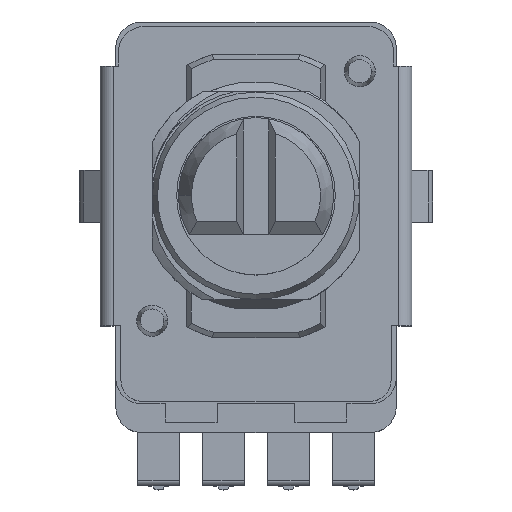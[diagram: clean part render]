
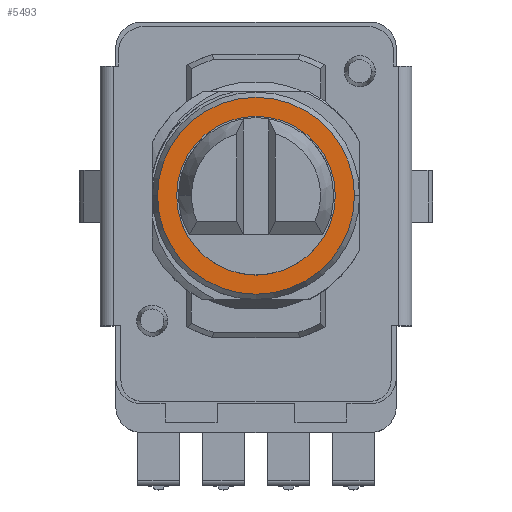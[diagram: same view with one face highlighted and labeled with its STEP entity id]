
A CAD part, top view. The second image highlights one B-rep face of the part: STEP entity #5493.
In plain terms, the highlighted planar face has unit normal (0, 0, 1).
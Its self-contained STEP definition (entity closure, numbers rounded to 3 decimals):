
#309 = FACE_BOUND ( 'NONE', #13889, .T. ) ;
#1232 = PLANE ( 'NONE',  #29580 ) ;
#2360 = DIRECTION ( 'NONE',  ( 0., 0., -1. ) ) ;
#2623 = CIRCLE ( 'NONE', #4556, 3.79 ) ;
#3071 = VERTEX_POINT ( 'NONE', #9051 ) ;
#4556 = AXIS2_PLACEMENT_3D ( 'NONE', #20110, #2360, #23072 ) ;
#5493 = ADVANCED_FACE ( 'NONE', ( #23960, #309 ), #1232, .F. ) ;
#5839 = CARTESIAN_POINT ( 'NONE',  ( 0., 0., 12.5 ) ) ;
#6902 = EDGE_LOOP ( 'NONE', ( #14560, #31190 ) ) ;
#7339 = CARTESIAN_POINT ( 'NONE',  ( 0., 0., 12.5 ) ) ;
#8544 = ORIENTED_EDGE ( 'NONE', *, *, #37167, .T. ) ;
#8832 = DIRECTION ( 'NONE',  ( -1., 0., 0. ) ) ;
#8967 = DIRECTION ( 'NONE',  ( 0., 0., -1. ) ) ;
#9051 = CARTESIAN_POINT ( 'NONE',  ( 3.055, 0., 12.5 ) ) ;
#9858 = AXIS2_PLACEMENT_3D ( 'NONE', #5839, #26510, #8832 ) ;
#10358 = DIRECTION ( 'NONE',  ( -1., 0., 0. ) ) ;
#12681 = EDGE_CURVE ( 'NONE', #19381, #18313, #2623, .T. ) ;
#13524 = CARTESIAN_POINT ( 'NONE',  ( 0., 0., 12.5 ) ) ;
#13835 = CIRCLE ( 'NONE', #34897, 3.055 ) ;
#13889 = EDGE_LOOP ( 'NONE', ( #8544, #16403 ) ) ;
#13925 = EDGE_CURVE ( 'NONE', #18313, #19381, #35744, .T. ) ;
#14560 = ORIENTED_EDGE ( 'NONE', *, *, #13925, .F. ) ;
#16403 = ORIENTED_EDGE ( 'NONE', *, *, #30982, .T. ) ;
#16485 = DIRECTION ( 'NONE',  ( -1., 0., 0. ) ) ;
#18313 = VERTEX_POINT ( 'NONE', #22655 ) ;
#19381 = VERTEX_POINT ( 'NONE', #27232 ) ;
#20005 = VERTEX_POINT ( 'NONE', #29027 ) ;
#20110 = CARTESIAN_POINT ( 'NONE',  ( 0., 0., 12.5 ) ) ;
#22655 = CARTESIAN_POINT ( 'NONE',  ( -3.79, 0., 12.5 ) ) ;
#23072 = DIRECTION ( 'NONE',  ( -1., 0., 0. ) ) ;
#23960 = FACE_OUTER_BOUND ( 'NONE', #6902, .T. ) ;
#24790 = CIRCLE ( 'NONE', #9858, 3.055 ) ;
#26510 = DIRECTION ( 'NONE',  ( 0., 0., -1. ) ) ;
#26632 = CARTESIAN_POINT ( 'NONE',  ( 0., 0., 12.5 ) ) ;
#27232 = CARTESIAN_POINT ( 'NONE',  ( 3.79, 0., 12.5 ) ) ;
#28029 = DIRECTION ( 'NONE',  ( 0., 0., -1. ) ) ;
#29027 = CARTESIAN_POINT ( 'NONE',  ( -3.055, 0., 12.5 ) ) ;
#29580 = AXIS2_PLACEMENT_3D ( 'NONE', #7339, #28029, #10358 ) ;
#29601 = DIRECTION ( 'NONE',  ( -1., 0., 0. ) ) ;
#30982 = EDGE_CURVE ( 'NONE', #3071, #20005, #13835, .T. ) ;
#31190 = ORIENTED_EDGE ( 'NONE', *, *, #12681, .F. ) ;
#31354 = AXIS2_PLACEMENT_3D ( 'NONE', #26632, #8967, #29601 ) ;
#34153 = DIRECTION ( 'NONE',  ( 0., 0., -1. ) ) ;
#34897 = AXIS2_PLACEMENT_3D ( 'NONE', #13524, #34153, #16485 ) ;
#35744 = CIRCLE ( 'NONE', #31354, 3.79 ) ;
#37167 = EDGE_CURVE ( 'NONE', #20005, #3071, #24790, .T. ) ;
